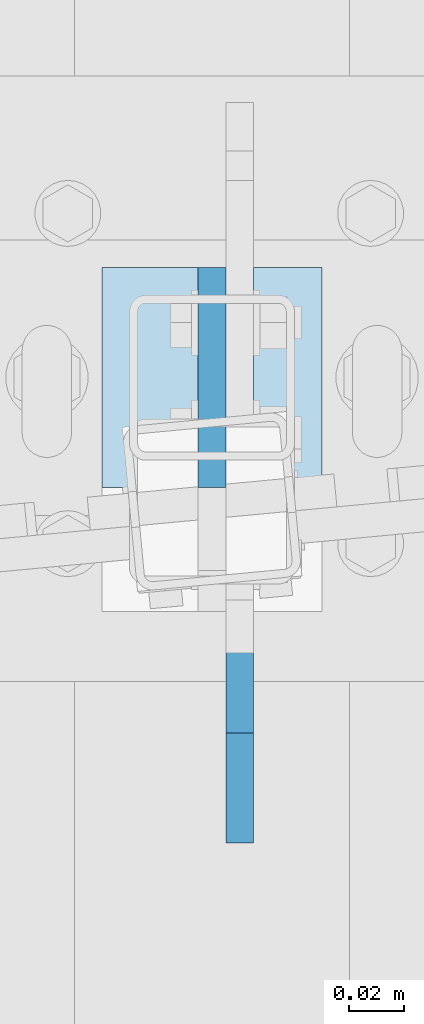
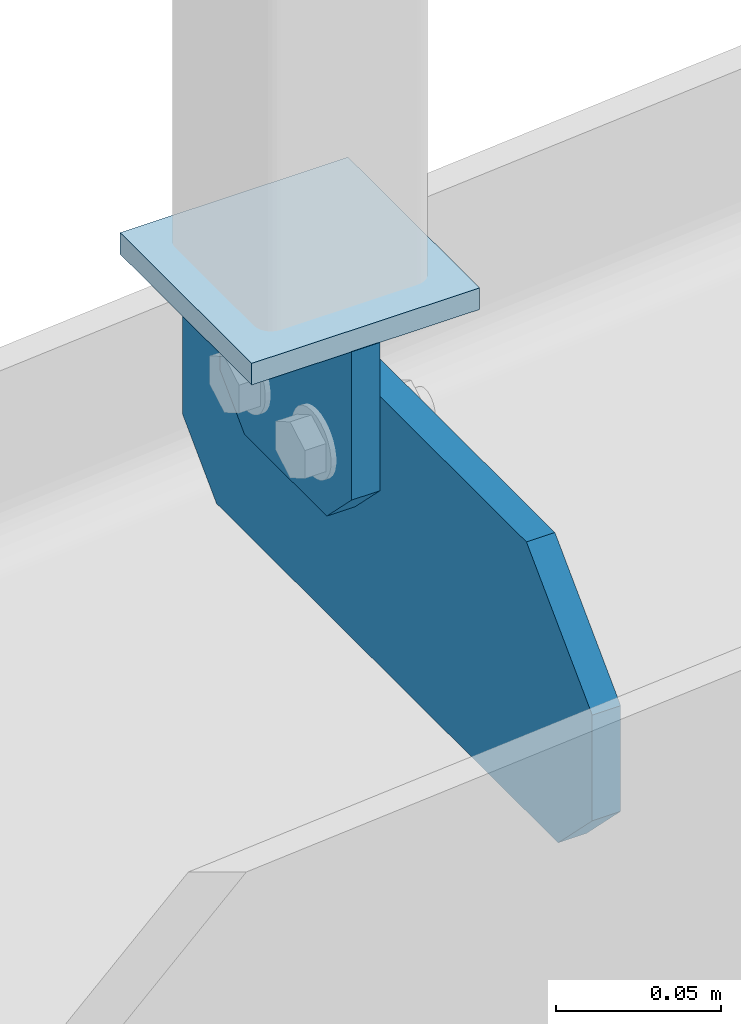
# One storey, part 182 of 271: 3 plates, 2 elements without a shape of their own.
"""IFC2X3 building model written with IfcOpenShell, lengths in millimetres."""

from ifc_helpers import new_model, si_unit, frame, origin_with_axes, place, context, subcontext, project, spatial, polyline, outline, extrude, material, type_object, element, aggregate, save


model = new_model("IFC2X3")

# Units and contexts
model_context = context("Model", 3, precision=1e-05, world=origin_with_axes())
body_context = subcontext(model_context, "Body", "Model", "MODEL_VIEW")
ifc_project = project(units=[si_unit("LENGTHUNIT", "METRE", prefix="MILLI"), si_unit("AREAUNIT", "SQUARE_METRE"), si_unit("VOLUMEUNIT", "CUBIC_METRE"), si_unit("MASSUNIT", "GRAM", prefix="KILO"), si_unit("TIMEUNIT", "SECOND"), si_unit("PLANEANGLEUNIT", "RADIAN"), si_unit("SOLIDANGLEUNIT", "STERADIAN"), si_unit("THERMODYNAMICTEMPERATUREUNIT", "DEGREE_CELSIUS"), si_unit("LUMINOUSINTENSITYUNIT", "LUMEN")], contexts=[model_context])

# Site, building, storey
site_placement = place(None, origin_with_axes())
site = spatial("IfcSite", under=ifc_project, at=site_placement, Name="Undefined", CompositionType="ELEMENT")
building_placement = place(site_placement, origin_with_axes())
building = spatial("IfcBuilding", under=site, at=building_placement, Name="Undefined", CompositionType="ELEMENT")
storey_placement = place(building_placement, origin_with_axes())
storey = spatial("IfcBuildingStorey", under=building, at=storey_placement, Name="Undefined", CompositionType="ELEMENT", Elevation=0.0)

# Assembly, plate
assembly_1_placement = place(storey_placement, origin_with_axes())
assembly_1 = element("IfcElementAssembly", 1, at=assembly_1_placement, inside=storey, AssemblyPlace="NOTDEFINED", PredefinedType="RIGID_FRAME")
ifc_material = material(Name="STEEL/S355JR")
plate_type_1 = type_object("IfcPlateType", Name="BL10*70", PredefinedType="NOTDEFINED")
plate_1_placement = place(assembly_1_placement, frame((9528.37568709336, 4090.32498425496, 18712.949999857), z_axis=(-1.0, 0.0, 1.38777878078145e-17), x_axis=(0.0, -0.707106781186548, -0.707106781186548)))
plate_1 = element("IfcPlate", 2, at=plate_1_placement, type_object=plate_type_1, material=ifc_material, Name="BLACHA", ObjectType="BL10*70", context=body_context, shape_type="SweptSolid", body=[
    extrude(outline(polyline([(0.0, 0.0), (21.2132034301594, 1.09139364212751e-11), (56.5685424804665, 35.3553390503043), (56.568542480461, 56.5685424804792), (17.6776695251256, 95.4594192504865), (-38.890872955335, 38.8908729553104), (0.0, 0.0)])), frame((0.0, 0.0, -5.0), z_axis=(0.0, 0.0, 1.0), x_axis=(1.0, 0.0, 0.0)), (0.0, 0.0, 1.0), 10.0),
])

assembly_2_placement = place(storey_placement, origin_with_axes())
assembly_2 = element("IfcElementAssembly", 3, at=assembly_2_placement, inside=storey, AssemblyPlace="NOTDEFINED", PredefinedType="RIGID_FRAME")
plate_type_2 = type_object("IfcPlateType", Name="BL10*100", PredefinedType="NOTDEFINED")
plate_2_placement = place(assembly_2_placement, frame((9538.37568709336, 3881.28536647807, 18647.949999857), z_axis=(-1.0, 0.0, 1.38777878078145e-17), x_axis=(0.0, 0.0, 1.0)))
plate_2 = element("IfcPlate", 4, at=plate_2_placement, type_object=plate_type_2, material=ifc_material, Name="BLACHA", ObjectType="BL10*100", context=body_context, shape_type="SweptSolid", body=[
    extrude(outline(polyline([(0.0, 20.7716979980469), (20.7716979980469, 8.17124146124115e-14), (60.0, 4.44089209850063e-13), (100.0, 40.0000000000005), (100.0, 209.16485595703), (60.0, 249.16485595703), (20.7716979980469, 249.16485595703), (0.0, 228.393157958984), (0.0, 20.7716979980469)])), frame((0.0, 0.0, -5.0), z_axis=(0.0, 0.0, 1.0), x_axis=(1.0, 0.0, 0.0)), (0.0, 0.0, 1.0), 10.0),
])
aggregate(assembly_2, [plate_2])

# Plate
plate_type_3 = type_object("IfcPlateType", Name="BL8*80", PredefinedType="NOTDEFINED")
plate_3_placement = place(assembly_1_placement, frame((9568.37568709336, 4090.32498425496, 18771.949999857), z_axis=(0.0, 0.0, -1.0), x_axis=(0.0, -1.0, 0.0)))
plate_3 = element("IfcPlate", 5, at=plate_3_placement, type_object=plate_type_3, material=ifc_material, Name="BLACHA", ObjectType="BL8*80", context=body_context, shape_type="SweptSolid", body=[
    extrude(outline(polyline([(0.0, 0.0), (80.0, 0.0), (80.0, 80.0), (0.0, 80.0), (0.0, 0.0)])), frame((0.0, 0.0, -4.0), z_axis=(0.0, 0.0, 1.0), x_axis=(1.0, 0.0, 0.0)), (0.0, 0.0, 1.0), 8.0),
])

aggregate(assembly_1, [plate_3, plate_1])

save(model, "model.ifc")
